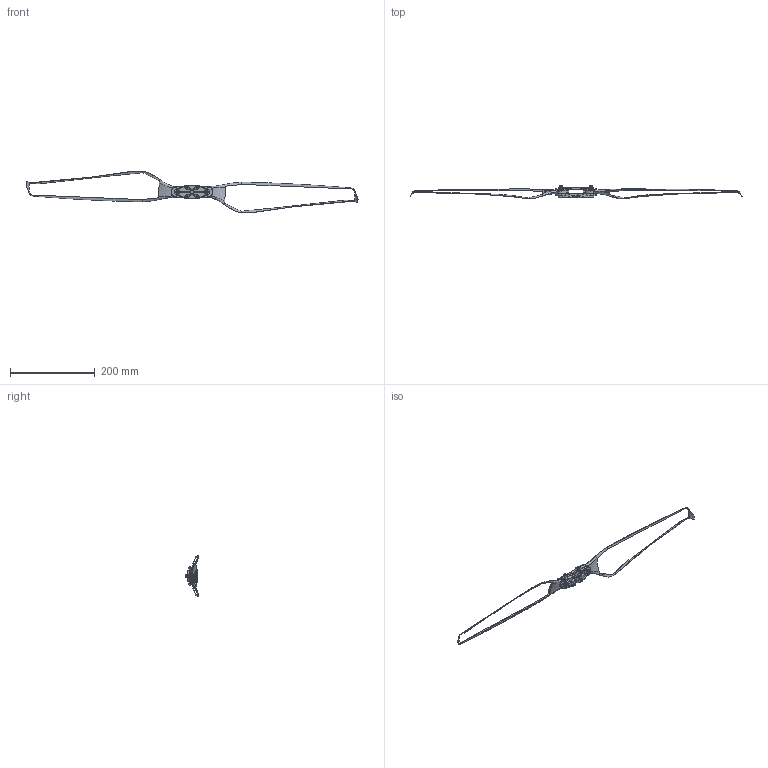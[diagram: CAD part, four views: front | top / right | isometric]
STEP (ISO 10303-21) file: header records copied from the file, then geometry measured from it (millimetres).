
FILE_DESCRIPTION (( 'STEP AP214' ), '1' );
FILE_NAME ('MF3119P-懫諾.STEP', '2025-02-11T03:48:15', ( '' ), ( '' ), 'SwSTEP 2.0', 'SolidWorks 2022', '' );
FILE_SCHEMA (( 'AUTOMOTIVE_DESIGN' ));
Length unit declared in the file: millimetre
Products named in the file (6): M4x25 弹垫螺丝; MF3119P-镂空; BJJ02060402-3119桨夹下板-A; MF3119-桨叶; M4防松螺母; BJJ02060401-3119桨夹上板-B
Assembly tree (8 placements, depth 2):
  MF3119P-镂空
    BJJ02060402-3119桨夹下板-A
    MF3119-桨叶  x2
    BJJ02060401-3119桨夹上板-B
    M4x25 弹垫螺丝  x2
    M4防松螺母  x2
Bounding box: 784.4 x 32.31 x 98.59 mm (x, y, z)
Volume: 56743.9 mm3; surface area: 43505.6 mm2
Topology: 10 solids, 10 shells, 1412 faces, 3625 edges, 2284 vertices
Faces by surface type: cylinder 450, bspline 414, plane 357, cone 123, torus 68
Entity records: 71505 total; most frequent: CARTESIAN_POINT 48925, ORIENTED_EDGE 5004, DIRECTION 4182, EDGE_CURVE 2502, VERTEX_POINT 1569, AXIS2_PLACEMENT_3D 1491, LINE 1200, VECTOR 1200
